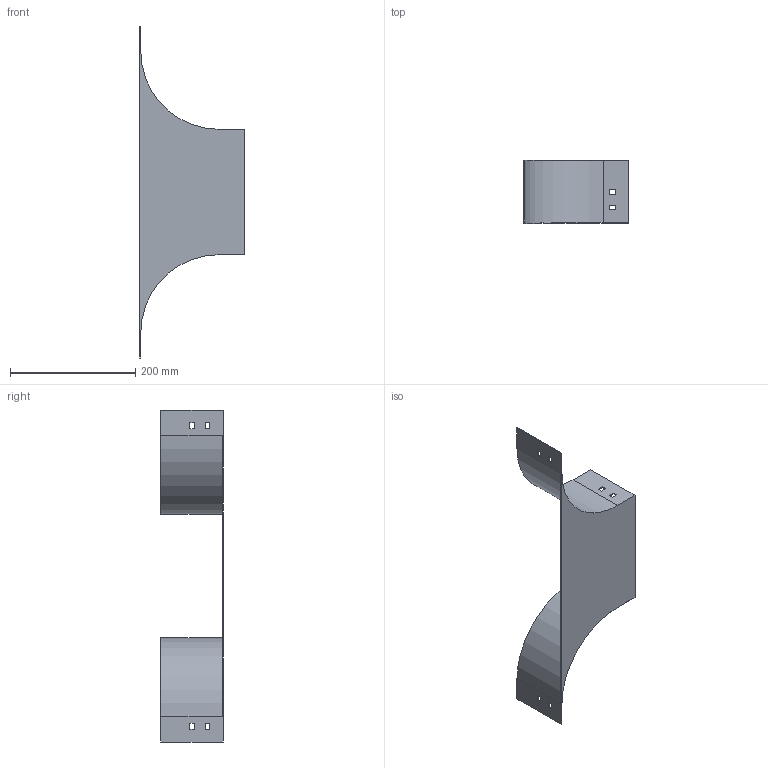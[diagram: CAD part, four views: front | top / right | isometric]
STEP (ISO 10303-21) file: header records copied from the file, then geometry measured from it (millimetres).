
FILE_DESCRIPTION (( 'STEP AP214' ), '1' );
FILE_NAME ('RL_201.step', '2025-07-16T09:25:04', ( '' ), ( '' ), 'SwSTEP 2.0', 'SolidWorks 2023', '' );
FILE_SCHEMA (( 'AUTOMOTIVE_DESIGN' ));
Length unit declared in the file: millimetre
Products named in the file (1): RL_201
Bounding box: 166.5 x 100 x 530 mm (x, y, z)
Volume: 141921.4 mm3; surface area: 192156.1 mm2
Topology: 1 solids, 1 shells, 50 faces, 144 edges, 96 vertices
Faces by surface type: plane 46, cylinder 4
Entity records: 1671 total; most frequent: CARTESIAN_POINT 291, ORIENTED_EDGE 288, DIRECTION 254, EDGE_CURVE 144, VECTOR 136, LINE 136, VERTEX_POINT 96, EDGE_LOOP 66
